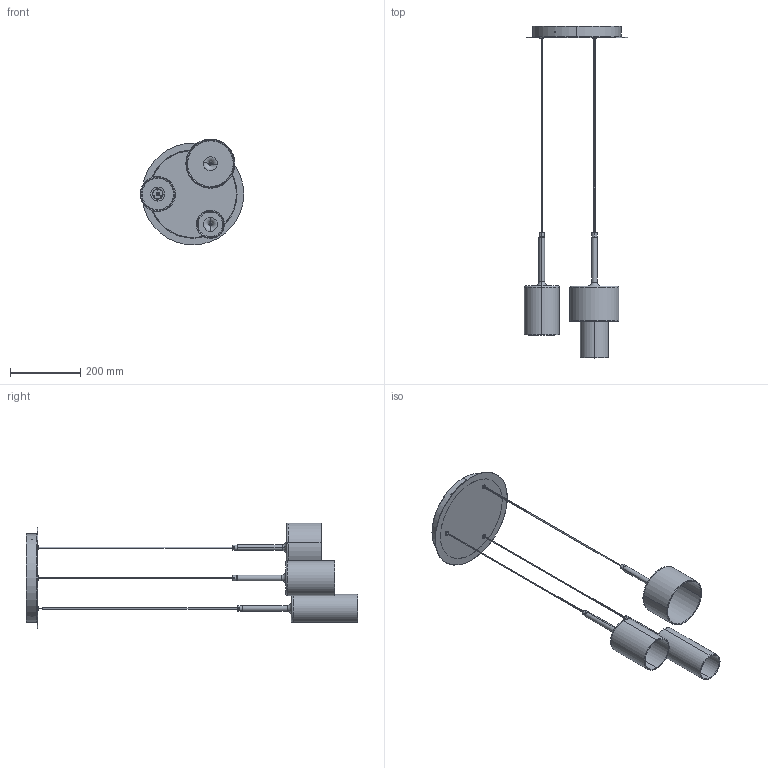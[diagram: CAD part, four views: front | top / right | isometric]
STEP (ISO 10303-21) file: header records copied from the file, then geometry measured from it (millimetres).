
FILE_DESCRIPTION (( 'STEP AP203' ), '1' );
FILE_NAME ('SPSPILX03XXXXXX-PER 3D.STEP', '2025-06-25T16:45:27', ( '' ), ( '' ), 'SwSTEP 2.0', 'SolidWorks 2024', '' );
FILE_SCHEMA (( 'CONFIG_CONTROL_DESIGN' ));
Length unit declared in the file: millimetre
Products named in the file (17): PENDENTE SPILLRAY EVO P-00; CAVO NL2CN_CAVO NL2CN; WSCM2A0146-0700-01; WSCM2A0143-0700-02_WSCM2A0143-0700-02; VSPILLRAYMCS; PENDENTE SPILLRAY EVO G-00; WSM2G1522-FR------; WSASS-000000058-00; VSPILLRAYPCS; WSCM2A0119-0700-00; WSCM2C0184-0100-00; WSCM2F0026-0100-01_Default<按加工>; PENDENTE SPILLRAY EVO M-00; SPSPILX03XXXXXX-PER 3D; VSPILLRAYGCS
Assembly tree (20 placements, depth 3):
  SPSPILX03XXXXXX-PER 3D
    WSASS-000000058-00
      WSCM2F0026-0100-01_Default<按加工>
      WSCM2C0184-0100-00
      WSM2G1522-FR------  x3
    PENDENTE SPILLRAY EVO G-00
      WSCM2A0119-0700-00
      CAVO NL2CN_CAVO NL2CN
      VSPILLRAYGCS
    PENDENTE SPILLRAY EVO P-00
      WSCM2A0119-0700-00
      CAVO NL2CN_CAVO NL2CN
      VSPILLRAYPCS
    PENDENTE SPILLRAY EVO M-00
      WSCM2A0146-0700-01
      WSCM2A0143-0700-02_WSCM2A0143-0700-02
      WSCM2A0119-0700-00
      CAVO NL2CN_CAVO NL2CN
      VSPILLRAYMCS
Bounding box: 295 x 945.89 x 301.59 mm (x, y, z)
Volume: 689190.3 mm3; surface area: 693259.5 mm2
Topology: 25 solids, 25 shells, 513 faces, 1072 edges, 633 vertices
Faces by surface type: cylinder 212, torus 106, plane 95, cone 92, bspline 6, sphere 2
Entity records: 14075 total; most frequent: CARTESIAN_POINT 2647, DIRECTION 2314, ORIENTED_EDGE 1764, AXIS2_PLACEMENT_3D 1022, EDGE_CURVE 882, CIRCLE 570, VERTEX_POINT 525, EDGE_LOOP 489
